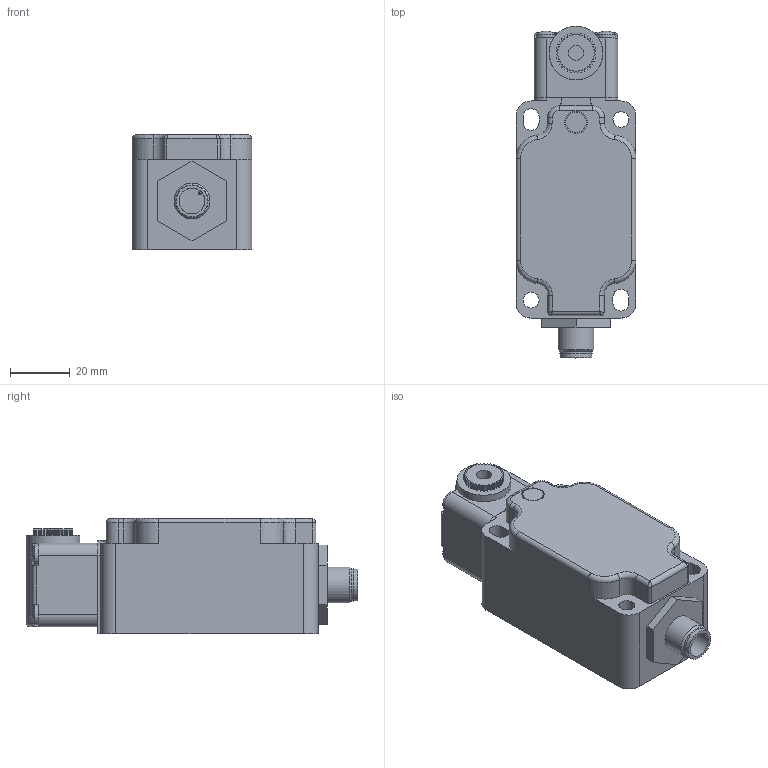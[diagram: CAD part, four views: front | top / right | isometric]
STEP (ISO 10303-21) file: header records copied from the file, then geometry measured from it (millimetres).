
FILE_DESCRIPTION((''),'2;1');
FILE_NAME('M:\INVENTORjob\Konstruktion\Sicherheitsschalter\ipt iam Modelle\April 2012\S300-P13C1-M12-CB\S300-P13C1-M12-CB.stp','2012-04-16T10:12:31',('sloesch'),(''),'Autodesk Inventor 2009','Autodesk Inventor 2009','');
FILE_SCHEMA(('AUTOMOTIVE_DESIGN { 1 0 10303 214 1 1 1 1 }'));
Length unit declared in the file: millimetre
Products named in the file (3): S300-P13C1-M12-CB_; 8_1; A10
Assembly tree (2 placements, depth 2):
  S300-P13C1-M12-CB_
    8_1
    A10
Bounding box: 40 x 110.8 x 38.4 mm (x, y, z)
Volume: 123292.2 mm3; surface area: 22842 mm2
Topology: 2 solids, 2 shells, 301 faces, 834 edges, 544 vertices
Faces by surface type: plane 148, cylinder 134, torus 11, sphere 5, bspline 2, cone 1
Full cylindrical faces by diameter (mm): 5 x1, 5.3 x2, 6.6 x4, 6.8 x1, 7.5 x1, 8.6 x1, 10.6 x1, 10.7 x1, 12 x1, 18 x1
Entity records: 9715 total; most frequent: CARTESIAN_POINT 1848, DIRECTION 1682, ORIENTED_EDGE 1604, EDGE_CURVE 802, AXIS2_PLACEMENT_3D 586, VERTEX_POINT 533, VECTOR 510, LINE 510
